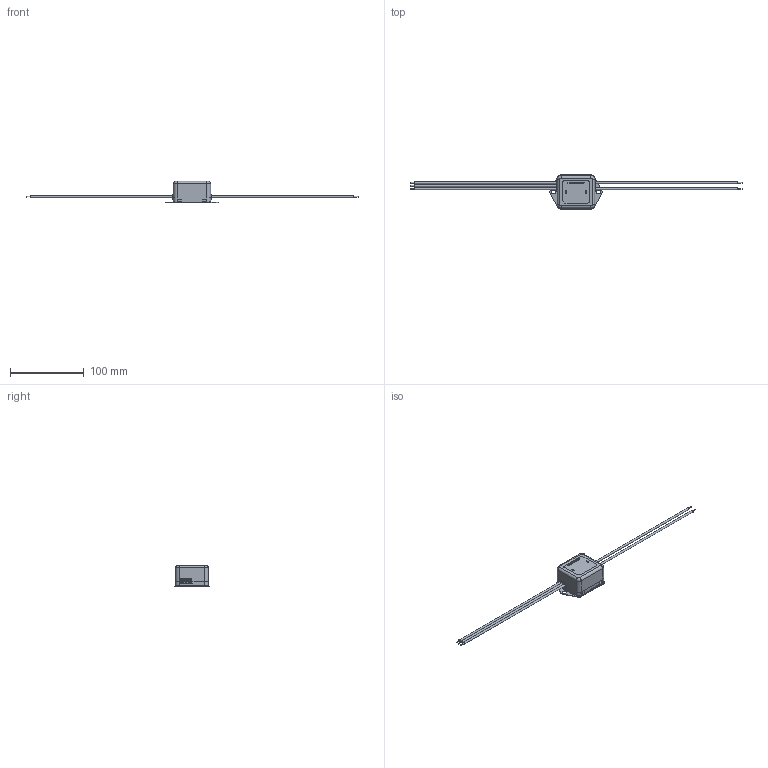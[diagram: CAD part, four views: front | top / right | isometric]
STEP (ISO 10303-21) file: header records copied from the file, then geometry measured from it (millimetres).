
FILE_DESCRIPTION(/* description */ ('naming raw material'),/* implementation_level */ '2;1');
FILE_NAME(/* name */ 'K:\Development\R&D_Schaffner_Thailand\Projects\FNxxxx\FN2560_APOLLON\80_CAD\3D\CUSTOMER STEP FILE FN2560-xx-04-Cxx.stp',/* time_stamp */ '2020-10-27T15:12:14+07:00',/* author */ ('Jittrapon.Maneerat'),/* organization */ ('Schaffner Thailand Ltd.'),/* preprocessor_version */ 'ST-DEVELOPER v16.5',/* originating_system */ 'Autodesk Inventor 2017',/* authorisation */ '');
FILE_SCHEMA (('AUTOMOTIVE_DESIGN { 1 0 10303 214 3 1 1 }'));
Length unit declared in the file: millimetre
Products named in the file (1): Part47
Bounding box: 450.5 x 46.6 x 29.06 mm (x, y, z)
Volume: 58531.8 mm3; surface area: 25383.6 mm2
Topology: 1 solids, 1 shells, 1017 faces, 2699 edges, 1782 vertices
Faces by surface type: plane 860, cylinder 66, bspline 57, cone 17, torus 17
Full cylindrical faces by diameter (mm): 1.23 x5, 2.75 x5
Entity records: 32875 total; most frequent: CARTESIAN_POINT 6804, ORIENTED_EDGE 5358, DIRECTION 4637, EDGE_CURVE 2679, LINE 2371, VECTOR 2371, VERTEX_POINT 1777, EDGE_LOOP 1148
